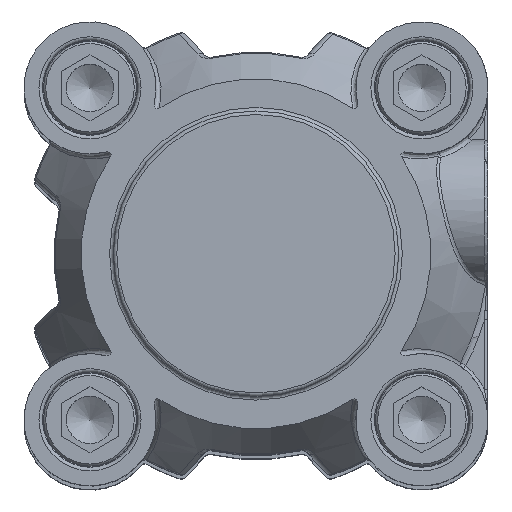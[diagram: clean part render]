
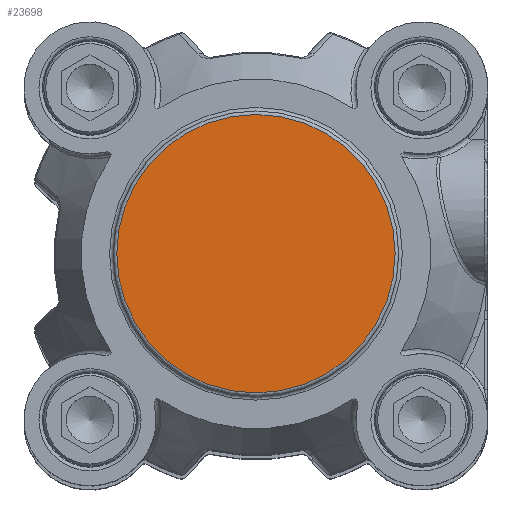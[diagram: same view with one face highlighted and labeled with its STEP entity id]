
A CAD part, top view. The second image highlights one B-rep face of the part: STEP entity #23698.
In plain terms, the highlighted planar face has unit normal (0, 0, 1).
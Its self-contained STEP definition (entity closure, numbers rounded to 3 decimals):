
#1213=PLANE('',#25319);
#7110=ORIENTED_EDGE('',*,*,#10459,.F.);
#7111=ORIENTED_EDGE('',*,*,#10460,.F.);
#10459=EDGE_CURVE('',#12397,#12398,#13468,.T.);
#10460=EDGE_CURVE('',#12398,#12397,#13469,.T.);
#12397=VERTEX_POINT('',#38834);
#12398=VERTEX_POINT('',#38835);
#13468=CIRCLE('',#25320,19.5);
#13469=CIRCLE('',#25321,19.5);
#14665=EDGE_LOOP('',(#7110,#7111));
#15892=FACE_BOUND('',#14665,.T.);
#23698=ADVANCED_FACE('',(#15892),#1213,.F.);
#25319=AXIS2_PLACEMENT_3D('',#38832,#29192,#29193);
#25320=AXIS2_PLACEMENT_3D('',#38833,#29194,#29195);
#25321=AXIS2_PLACEMENT_3D('',#38836,#29196,#29197);
#29192=DIRECTION('',(0.,0.,-1.));
#29193=DIRECTION('',(0.,1.,0.));
#29194=DIRECTION('',(0.,0.,-1.));
#29195=DIRECTION('',(1.,0.,0.));
#29196=DIRECTION('',(0.,0.,-1.));
#29197=DIRECTION('',(1.,0.,0.));
#38832=CARTESIAN_POINT('',(0.,-30.751,43.));
#38833=CARTESIAN_POINT('',(0.,0.,43.));
#38834=CARTESIAN_POINT('',(-19.5,0.,43.));
#38835=CARTESIAN_POINT('',(19.5,0.,43.));
#38836=CARTESIAN_POINT('',(0.,0.,43.));
